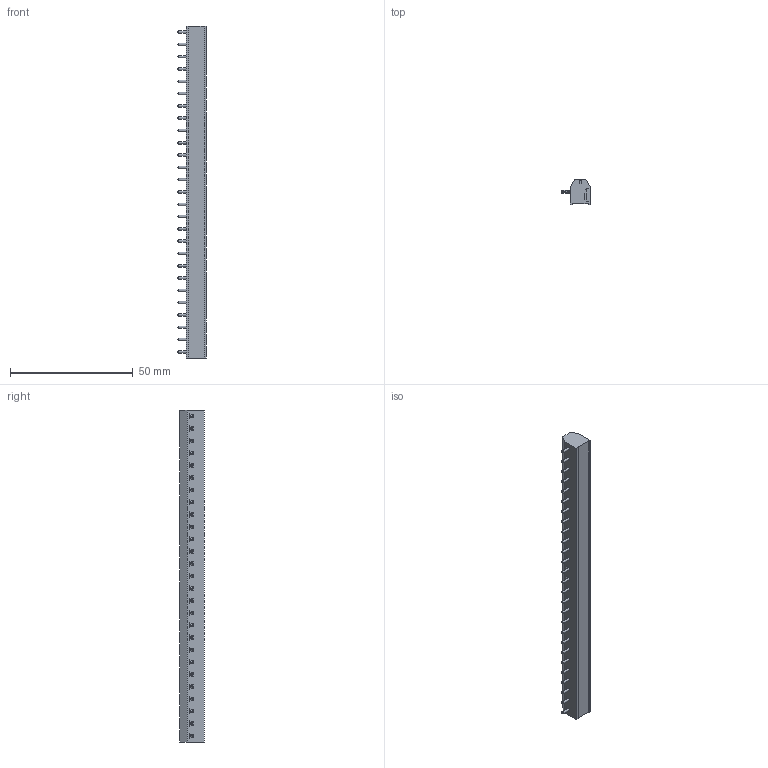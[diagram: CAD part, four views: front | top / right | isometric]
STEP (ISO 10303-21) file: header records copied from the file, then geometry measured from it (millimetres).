
FILE_DESCRIPTION (( 'STEP AP214' ), '1' );
FILE_NAME ('951-HG-DS-27.STEP', '2008-02-29T04:26:10', ( ' ' ), ( '' ), 'SwSTEP 2.0', 'SolidWorks 2007', '' );
FILE_SCHEMA (( 'AUTOMOTIVE_DESIGN' ));
Length unit declared in the file: millimetre
Products named in the file (1): 951-HG-DS-27
Bounding box: 11.5 x 10 x 135 mm (x, y, z)
Volume: 8646.8 mm3; surface area: 7811.3 mm2
Topology: 1 solids, 1 shells, 1947 faces, 6258 edges, 4178 vertices
Faces by surface type: plane 1551, cylinder 288, cone 54, bspline 54
Entity records: 79910 total; most frequent: CARTESIAN_POINT 29792, ORIENTED_EDGE 12516, DIRECTION 7412, EDGE_CURVE 6258, VERTEX_POINT 4178, VECTOR 3342, LINE 3342, B_SPLINE_CURVE_WITH_KNOTS 2728
